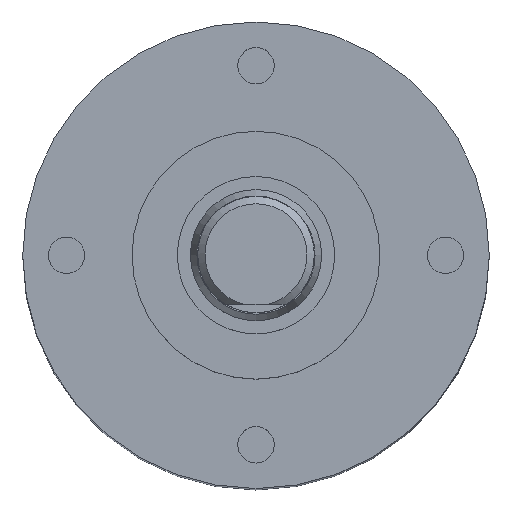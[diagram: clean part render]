
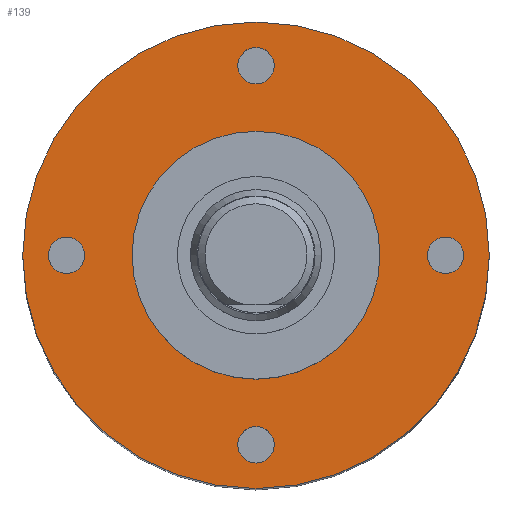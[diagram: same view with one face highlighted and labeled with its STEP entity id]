
A CAD part, top view. The second image highlights one B-rep face of the part: STEP entity #139.
In plain terms, the highlighted planar face has unit normal (0, 0, 1).
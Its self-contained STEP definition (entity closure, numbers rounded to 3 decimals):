
#42=FACE_BOUND('',#195,.T.);
#43=FACE_BOUND('',#196,.T.);
#44=FACE_BOUND('',#197,.T.);
#45=FACE_BOUND('',#198,.T.);
#46=FACE_BOUND('',#199,.T.);
#47=FACE_BOUND('',#200,.T.);
#100=PLANE('',#632);
#139=ADVANCED_FACE('',(#42,#43,#44,#45,#46,#47),#100,.T.);
#195=EDGE_LOOP('',(#277));
#196=EDGE_LOOP('',(#278));
#197=EDGE_LOOP('',(#279));
#198=EDGE_LOOP('',(#280));
#199=EDGE_LOOP('',(#281));
#200=EDGE_LOOP('',(#282));
#277=ORIENTED_EDGE('',*,*,#405,.T.);
#278=ORIENTED_EDGE('',*,*,#406,.T.);
#279=ORIENTED_EDGE('',*,*,#407,.T.);
#280=ORIENTED_EDGE('',*,*,#408,.T.);
#281=ORIENTED_EDGE('',*,*,#402,.T.);
#282=ORIENTED_EDGE('',*,*,#409,.F.);
#359=VERTEX_POINT('',#934);
#362=VERTEX_POINT('',#942);
#363=VERTEX_POINT('',#944);
#364=VERTEX_POINT('',#946);
#365=VERTEX_POINT('',#948);
#366=VERTEX_POINT('',#950);
#402=EDGE_CURVE('',#359,#359,#454,.T.);
#405=EDGE_CURVE('',#362,#362,#457,.T.);
#406=EDGE_CURVE('',#363,#363,#458,.T.);
#407=EDGE_CURVE('',#364,#364,#459,.T.);
#408=EDGE_CURVE('',#365,#365,#460,.T.);
#409=EDGE_CURVE('',#366,#366,#461,.T.);
#454=CIRCLE('',#622,8.5);
#457=CIRCLE('',#627,1.25);
#458=CIRCLE('',#628,1.25);
#459=CIRCLE('',#629,1.25);
#460=CIRCLE('',#630,1.25);
#461=CIRCLE('',#631,16.);
#622=AXIS2_PLACEMENT_3D('',#933,#748,#749);
#627=AXIS2_PLACEMENT_3D('',#941,#758,#759);
#628=AXIS2_PLACEMENT_3D('',#943,#760,#761);
#629=AXIS2_PLACEMENT_3D('',#945,#762,#763);
#630=AXIS2_PLACEMENT_3D('',#947,#764,#765);
#631=AXIS2_PLACEMENT_3D('',#949,#766,#767);
#632=AXIS2_PLACEMENT_3D('',#951,#768,#769);
#748=DIRECTION('',(0.,0.,-1.));
#749=DIRECTION('',(1.,0.,0.));
#758=DIRECTION('',(0.,0.,-1.));
#759=DIRECTION('',(0.,1.,0.));
#760=DIRECTION('',(0.,0.,-1.));
#761=DIRECTION('',(1.,0.,0.));
#762=DIRECTION('',(0.,0.,-1.));
#763=DIRECTION('',(0.,-1.,0.));
#764=DIRECTION('',(0.,0.,-1.));
#765=DIRECTION('',(-1.,0.,0.));
#766=DIRECTION('',(0.,0.,-1.));
#767=DIRECTION('',(-1.,0.,0.));
#768=DIRECTION('',(0.,0.,1.));
#769=DIRECTION('',(1.,0.,0.));
#933=CARTESIAN_POINT('',(0.,0.,0.));
#934=CARTESIAN_POINT('',(8.5,0.,0.));
#941=CARTESIAN_POINT('',(13.,0.,0.));
#942=CARTESIAN_POINT('',(13.,1.25,0.));
#943=CARTESIAN_POINT('',(0.,-13.,0.));
#944=CARTESIAN_POINT('',(1.25,-13.,0.));
#945=CARTESIAN_POINT('',(-13.,0.,0.));
#946=CARTESIAN_POINT('',(-13.,-1.25,0.));
#947=CARTESIAN_POINT('',(0.,13.,0.));
#948=CARTESIAN_POINT('',(-1.25,13.,0.));
#949=CARTESIAN_POINT('',(0.,0.,0.));
#950=CARTESIAN_POINT('',(-16.,0.,0.));
#951=CARTESIAN_POINT('',(0.,0.,0.));
